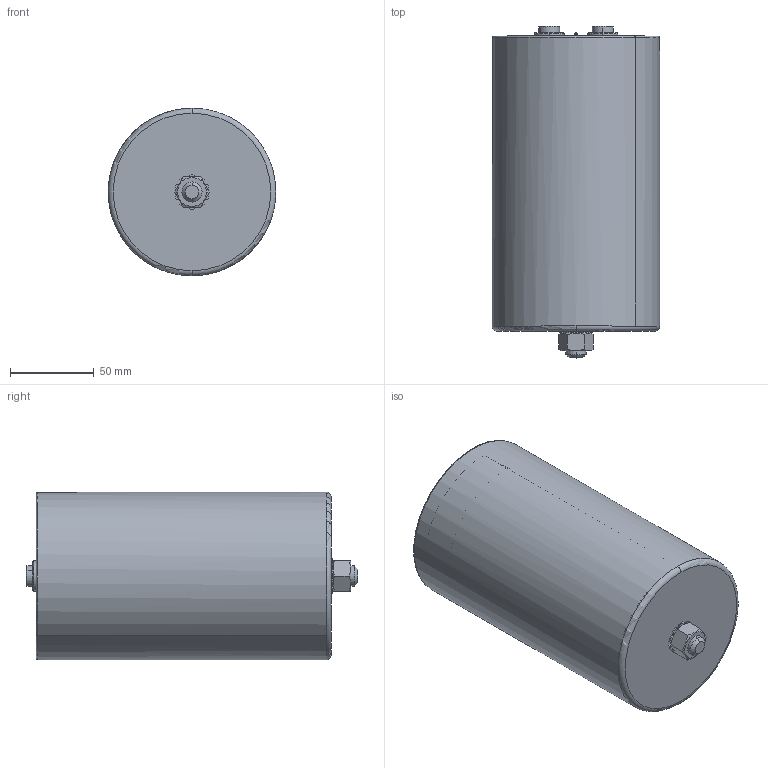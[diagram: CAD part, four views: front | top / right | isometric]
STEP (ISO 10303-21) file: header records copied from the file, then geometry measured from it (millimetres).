
FILE_DESCRIPTION (( 'STEP AP214' ), '1' );
FILE_NAME ('B25696 Series D100Hc176Ht182.STEP', '2025-03-20T05:53:45', ( '' ), ( '' ), 'SwSTEP 2.0', 'SolidWorks 2019', '' );
FILE_SCHEMA (( 'AUTOMOTIVE_DESIGN' ));
Length unit declared in the file: millimetre
Products named in the file (1): B25696 Series D100Hc176Ht182
Bounding box: 99.91 x 198 x 100 mm (x, y, z)
Volume: 112707.7 mm3; surface area: 157394 mm2
Topology: 1 solids, 5 shells, 368 faces, 936 edges, 591 vertices
Faces by surface type: plane 166, cylinder 132, cone 50, torus 20
Entity records: 11507 total; most frequent: CARTESIAN_POINT 2600, DIRECTION 1905, ORIENTED_EDGE 1864, EDGE_CURVE 932, AXIS2_PLACEMENT_3D 748, VERTEX_POINT 591, VECTOR 409, LINE 409
